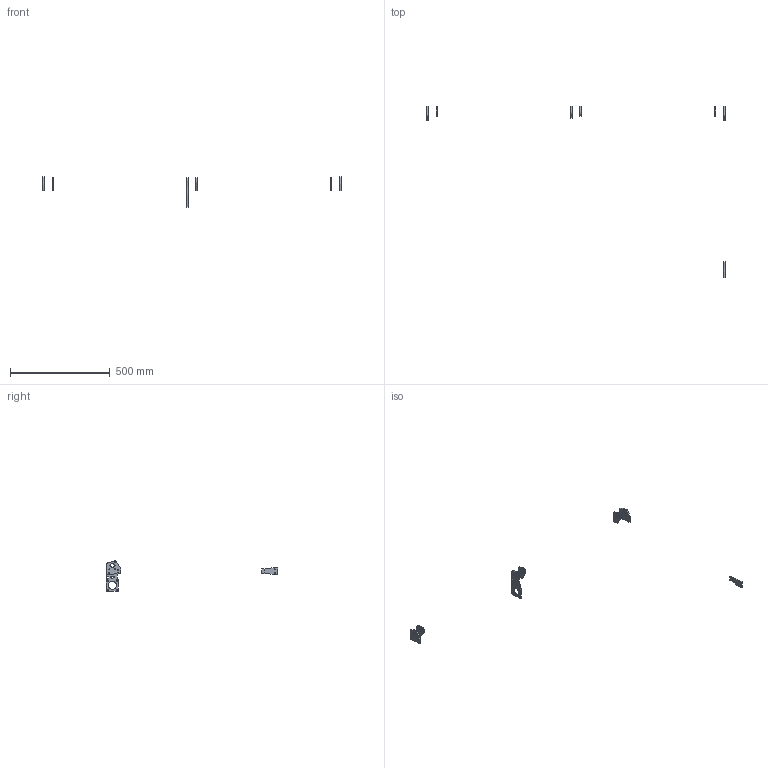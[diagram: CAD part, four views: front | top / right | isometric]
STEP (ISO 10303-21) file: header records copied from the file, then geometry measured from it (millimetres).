
FILE_DESCRIPTION(/* description */ (''),/* implementation_level */ '2;1');
FILE_NAME(/* name */ 'Y-939A~1',/* time_stamp */ '2014-02-14T19:44:02+01:00',/* author */ (''),/* organization */ (''),/* preprocessor_version */ 'ST-DEVELOPER v14',/* originating_system */ '',/* authorisation */ '');
FILE_SCHEMA (('AUTOMOTIVE_DESIGN'));
Length unit declared in the file: millimetre
Products named in the file (1): Document
Bounding box: 1496 x 860 x 153.5 mm (x, y, z)
Volume: 134590.4 mm3; surface area: 62767.2 mm2
Topology: 7 solids, 7 shells, 182 faces, 504 edges, 336 vertices
Faces by surface type: bspline 106, plane 76
Entity records: 12896 total; most frequent: CARTESIAN_POINT 6442, ORIENTED_EDGE 1008, PCURVE 1008, DEFINITIONAL_REPRESENTATION 1008, B_SPLINE_CURVE_WITH_KNOTS 998, SURFACE_CURVE 504, EDGE_CURVE 504, VERTEX_POINT 336
